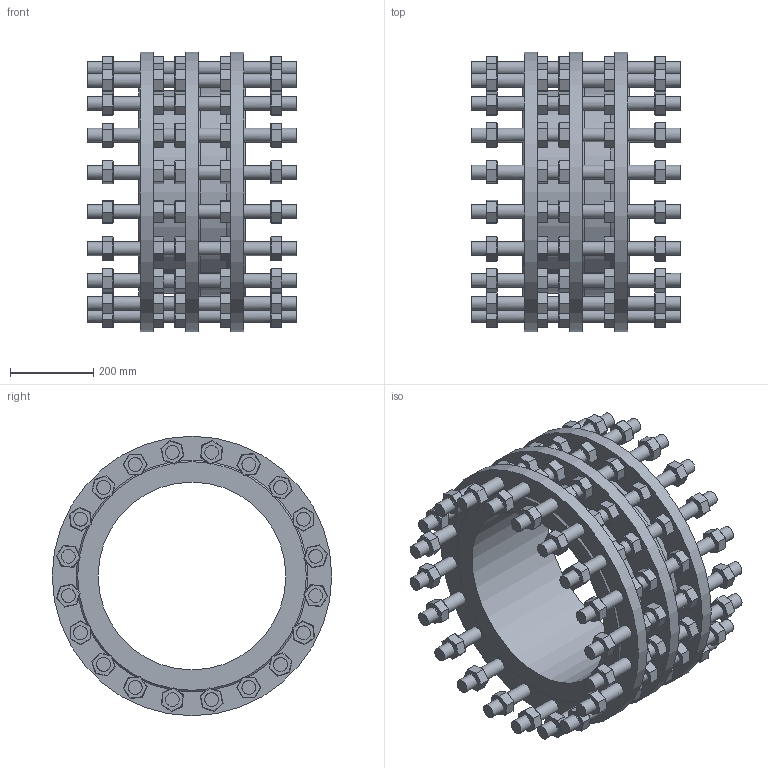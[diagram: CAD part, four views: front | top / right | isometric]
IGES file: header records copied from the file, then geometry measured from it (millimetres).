
Start section: SolidWorks IGES file using analytic representation for surfaces
Global section: file name: X:\AR\CV\873\873-0450-00-741000\873045000741000.IGS; native system: SolidWorks 2020; preprocessor: SolidWorks 2020; author: m.lucatello; date: 211105.104645; units: millimetre
Bounding box: 500 x 670 x 670 mm (x, y, z)
Surface area: 3572015.8 mm2 (no closed solid volume)
Topology: 0 solids, 0 shells, 2439 faces, 10026 edges, 9636 vertices
Faces by surface type: bspline 2049, revolution 390
